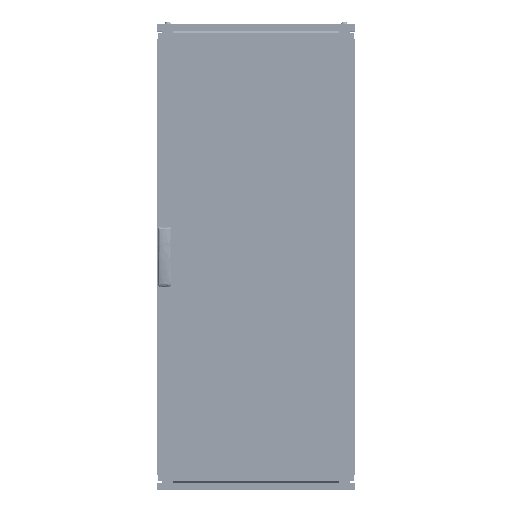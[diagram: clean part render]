
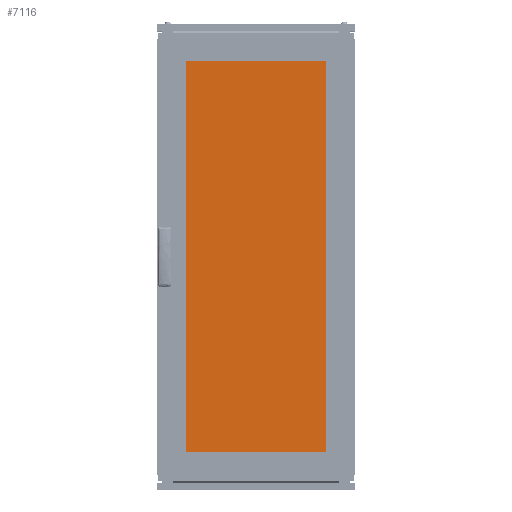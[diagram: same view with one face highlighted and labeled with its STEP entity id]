
A CAD part, top view. The second image highlights one B-rep face of the part: STEP entity #7116.
In plain terms, the highlighted planar face has unit normal (0, 0, 1).
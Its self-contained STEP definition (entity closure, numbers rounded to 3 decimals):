
#1865 = CARTESIAN_POINT ( 'NONE',  ( 0., 0., 5. ) ) ;
#2110 = LINE ( 'NONE', #166536, #101486 ) ;
#7116 = ADVANCED_FACE ( 'NONE', ( #166298 ), #84057, .F. ) ;
#14909 = CARTESIAN_POINT ( 'NONE',  ( -230., 610., 5. ) ) ;
#16164 = ORIENTED_EDGE ( 'NONE', *, *, #200558, .T. ) ;
#16287 = CARTESIAN_POINT ( 'NONE',  ( 230., -610., 5. ) ) ;
#17988 = EDGE_CURVE ( 'NONE', #175706, #62376, #54204, .T. ) ;
#19388 = DIRECTION ( 'NONE',  ( 0., -1., 0. ) ) ;
#22251 = AXIS2_PLACEMENT_3D ( 'NONE', #1865, #47336, #67852 ) ;
#34614 = DIRECTION ( 'NONE',  ( 0., 1., 0. ) ) ;
#47336 = DIRECTION ( 'NONE',  ( 0., 0., -1. ) ) ;
#48730 = LINE ( 'NONE', #16287, #122944 ) ;
#51007 = DIRECTION ( 'NONE',  ( -1., 0., 0. ) ) ;
#51682 = EDGE_LOOP ( 'NONE', ( #16164, #123575, #70087, #194365 ) ) ;
#54204 = LINE ( 'NONE', #117053, #199321 ) ;
#62376 = VERTEX_POINT ( 'NONE', #14909 ) ;
#67852 = DIRECTION ( 'NONE',  ( 0., -1., 0. ) ) ;
#70087 = ORIENTED_EDGE ( 'NONE', *, *, #92661, .T. ) ;
#78180 = LINE ( 'NONE', #109626, #140481 ) ;
#84057 = PLANE ( 'NONE',  #22251 ) ;
#86665 = VERTEX_POINT ( 'NONE', #137334 ) ;
#92661 = EDGE_CURVE ( 'NONE', #62376, #117665, #2110, .T. ) ;
#101486 = VECTOR ( 'NONE', #19388, 1000. ) ;
#109626 = CARTESIAN_POINT ( 'NONE',  ( -230., -610., 5. ) ) ;
#115469 = CARTESIAN_POINT ( 'NONE',  ( -230., -610., 5. ) ) ;
#117053 = CARTESIAN_POINT ( 'NONE',  ( -230., 610., 5. ) ) ;
#117665 = VERTEX_POINT ( 'NONE', #115469 ) ;
#122944 = VECTOR ( 'NONE', #34614, 1000. ) ;
#123575 = ORIENTED_EDGE ( 'NONE', *, *, #17988, .T. ) ;
#137334 = CARTESIAN_POINT ( 'NONE',  ( 230., -610., 5. ) ) ;
#140481 = VECTOR ( 'NONE', #192916, 1000. ) ;
#149437 = CARTESIAN_POINT ( 'NONE',  ( 230., 610., 5. ) ) ;
#166298 = FACE_OUTER_BOUND ( 'NONE', #51682, .T. ) ;
#166536 = CARTESIAN_POINT ( 'NONE',  ( -230., -610., 5. ) ) ;
#175706 = VERTEX_POINT ( 'NONE', #149437 ) ;
#176816 = EDGE_CURVE ( 'NONE', #117665, #86665, #78180, .T. ) ;
#192916 = DIRECTION ( 'NONE',  ( 1., 0., 0. ) ) ;
#194365 = ORIENTED_EDGE ( 'NONE', *, *, #176816, .T. ) ;
#199321 = VECTOR ( 'NONE', #51007, 1000. ) ;
#200558 = EDGE_CURVE ( 'NONE', #86665, #175706, #48730, .T. ) ;
